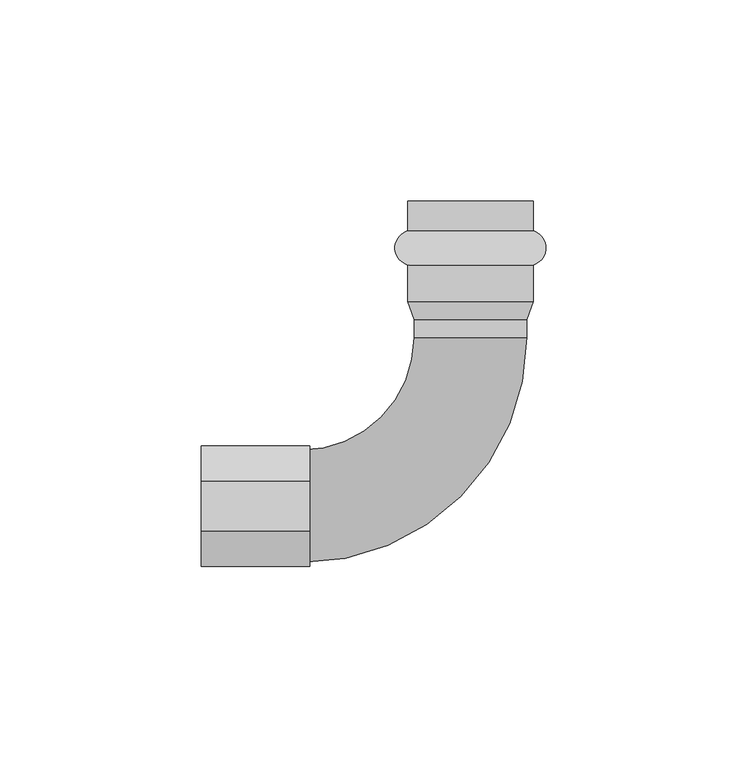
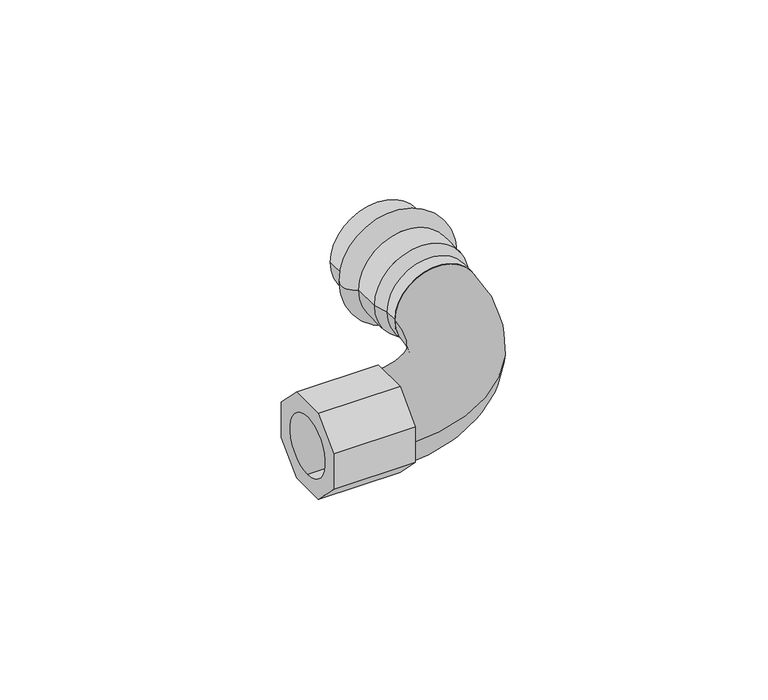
"""IFC4 building model written with IfcOpenShell, lengths in millimetres: valve geometry, Отвод_90°_с_переходом_на_внутреннюю_резьбу : Отвод_90°_с_переходом_на_внутреннюю_резьбу."""

from ifc_helpers import new_model, si_unit, point, frame, origin, origin_2d, place, context, project, spatial, polyline, circle_curve, ellipse_curve, trimmed, segment, composite_curve, outline, extrude, source, transform, mapped, element, save
from ifc_brep_helpers import plane_surface, cylinder_surface, revolved_surface, advanced_brep


def valve_146a76d8(model_context):
    return source(origin(), model_context, "Body", "SolidModel", [
        extrude(outline(polyline([(6.2132034, -15.0), (-6.2132034, -15.0), (-15.0, -6.2132034), (-15.0, 6.2132034), (-6.2132034, 15.0), (6.2132034, 15.0), (15.0, 6.2132034), (15.0, -6.2132034), (6.2132034, -15.0)]), holes=[composite_curve([segment(trimmed(circle_curve(origin_2d(), 10.0), [point((0.0, 10.0))], [point((0.0, -10.0))], True, "CARTESIAN"), True, "CONTINUOUS"), segment(trimmed(circle_curve(origin_2d(), 10.0), [point((0.0, -10.0))], [point((0.0, 10.0))], True, "CARTESIAN"), True, "CONTINUOUS")], self_intersect=False)]), frame((-67.0, 0.0, 0.0), z_axis=(1.0, 0.0, 0.0), x_axis=(0.0, 1.0, 0.0)), (0.0, 0.0, 1.0), 27.0),
        advanced_brep(
        [(15.58, 68.56, 0.0), (-15.58, 68.56, 0.0), (-15.58, 76.0, 0.0), (15.58, 76.0, 0.0), (15.58, 60.04, 0.0), (-15.58, 60.04, 0.0), (15.58, 51.0, 0.0), (-15.58, 51.0, 0.0), (14.0, 46.52, 0.0), (-14.0, 46.52, 0.0), (14.0, 42.0, 0.0), (-14.0, 42.0, 0.0), (0.0, 42.0, 0.0), (0.0, 76.0, 0.0)],
        [
            (0, 1, circle_curve(frame((0.0, 68.56, 0.0), z_axis=(0.0, 1.0, 0.0), x_axis=(-1.0, 0.0, 0.0)), 15.58)),
            (1, 2),
            (2, 3, circle_curve(frame((0.0, 76.0, 0.0), z_axis=(0.0, -1.0, 0.0), x_axis=(-1.0, 0.0, 0.0)), 15.58)),
            (3, 0),
            (1, 0, circle_curve(frame((0.0, 68.56, 0.0), z_axis=(0.0, 1.0, 0.0), x_axis=(-1.0, 0.0, 0.0)), 15.58)),
            (3, 2, circle_curve(frame((0.0, 76.0, 0.0), z_axis=(0.0, -1.0, 0.0), x_axis=(-1.0, 0.0, 0.0)), 15.58)),
            (4, 5, circle_curve(frame((0.0, 60.04, 0.0), z_axis=(0.0, 1.0, 0.0), x_axis=(-1.0, 0.0, 0.0)), 15.58)),
            (5, 1, circle_curve(frame((-14.3504491, 64.3, 0.0), z_axis=(0.0, 0.0, -1.0), x_axis=(0.0, 1.0, 0.0)), 4.4338917)),
            (0, 4, circle_curve(frame((14.3504491, 64.3, 0.0), z_axis=(0.0, 0.0, -1.0), x_axis=(0.0, 1.0, 0.0)), 4.4338917)),
            (5, 4, circle_curve(frame((0.0, 60.04, 0.0), z_axis=(0.0, 1.0, 0.0), x_axis=(-1.0, 0.0, 0.0)), 15.58)),
            (6, 7, circle_curve(frame((0.0, 51.0, 0.0), z_axis=(0.0, 1.0, 0.0), x_axis=(-1.0, 0.0, 0.0)), 15.58)),
            (7, 5),
            (4, 6),
            (7, 6, circle_curve(frame((0.0, 51.0, 0.0), z_axis=(0.0, 1.0, 0.0), x_axis=(-1.0, 0.0, 0.0)), 15.58)),
            (8, 9, circle_curve(frame((0.0, 46.52, 0.0), z_axis=(0.0, 1.0, 0.0), x_axis=(-1.0, 0.0, 0.0)), 14.0)),
            (9, 7),
            (6, 8),
            (9, 8, circle_curve(frame((0.0, 46.52, 0.0), z_axis=(0.0, 1.0, 0.0), x_axis=(-1.0, 0.0, 0.0)), 14.0)),
            (10, 11, circle_curve(frame((0.0, 42.0, 0.0), z_axis=(0.0, 1.0, 0.0), x_axis=(-1.0, 0.0, 0.0)), 14.0)),
            (11, 9),
            (8, 10),
            (11, 10, circle_curve(frame((0.0, 42.0, 0.0), z_axis=(0.0, 1.0, 0.0), x_axis=(-1.0, 0.0, 0.0)), 14.0)),
            (12, 11),
            (10, 12),
            (2, 13),
            (13, 3),
        ],
        [
            cylinder_surface(frame((0.0, 2076.0, 0.0), z_axis=(0.0, -1.0, 0.0), x_axis=(-1.0, 0.0, 0.0)), 15.58),
            revolved_surface(trimmed(ellipse_curve(frame((-14.3504491, 64.3, 0.0), z_axis=(0.0, 0.0, 1.0), x_axis=(0.0, 1.0, 0.0)), 4.4338917, 4.4338917), [point((-15.58, 68.56, 0.0))], [point((-15.58, 60.04, 0.0))], True, "CARTESIAN"), (0.0, 2076.0, 0.0), (0.0, -1.0, 0.0)),
            revolved_surface(polyline([(-15.58, 51.0, 0.0), (-14.0, 46.52, 0.0)]), (0.0, 2076.0, 0.0), (0.0, -1.0, 0.0)),
            cylinder_surface(frame((0.0, 2076.0, 0.0), z_axis=(0.0, -1.0, 0.0), x_axis=(-1.0, 0.0, 0.0)), 14.0),
            plane_surface(frame((0.0, 42.0, 0.0), z_axis=(0.0, -1.0, 0.0), x_axis=(-1.0, 0.0, 0.0))),
            plane_surface(frame((0.0, 76.0, 0.0), z_axis=(0.0, 1.0, 0.0), x_axis=(-1.0, 0.0, 0.0))),
        ],
        [
            (0, [[1, 2, 3, 4]]),
            (0, [[5, -4, 6, -2]]),
            (1, [[7, 8, -1, 9]]),
            (1, [[10, -9, -5, -8]]),
            (0, [[11, 12, -7, 13]]),
            (0, [[14, -13, -10, -12]]),
            (2, [[15, 16, -11, 17]]),
            (2, [[18, -17, -14, -16]]),
            (3, [[19, 20, -15, 21]]),
            (3, [[22, -21, -18, -20]]),
            (4, [[23, -19, 24]]),
            (4, [[-24, -22, -23]]),
            (5, [[-3, 25, 26]]),
            (5, [[-6, -26, -25]]),
        ],
    ),
        advanced_brep(
        [(-42.0, 0.0, 0.0), (-42.0, 14.0, 0.0), (-42.0, -14.0, 0.0), (-40.0, 14.0, 0.0), (-40.0, -14.0, 0.0), (-40.0, 0.0, 0.0)],
        [
            (0, 1),
            (1, 2, circle_curve(frame((-42.0, 0.0, 0.0), z_axis=(-1.0, 0.0, 0.0), x_axis=(0.0, 1.0, 0.0)), 14.0)),
            (2, 0),
            (2, 1, circle_curve(frame((-42.0, 0.0, 0.0), z_axis=(-1.0, 0.0, 0.0), x_axis=(0.0, 1.0, 0.0)), 14.0)),
            (1, 3),
            (3, 4, circle_curve(frame((-40.0, 0.0, 0.0), z_axis=(-1.0, 0.0, 0.0), x_axis=(0.0, 1.0, 0.0)), 14.0)),
            (4, 2),
            (4, 3, circle_curve(frame((-40.0, 0.0, 0.0), z_axis=(-1.0, 0.0, 0.0), x_axis=(0.0, 1.0, 0.0)), 14.0)),
            (3, 5),
            (5, 4),
        ],
        [
            plane_surface(frame((-42.0, 0.0, 0.0), z_axis=(-1.0, 0.0, 0.0), x_axis=(0.0, 1.0, 0.0))),
            cylinder_surface(frame((2000.0, 0.0, 0.0), z_axis=(-1.0, 0.0, 0.0), x_axis=(0.0, 1.0, 0.0)), 14.0),
            plane_surface(frame((-40.0, 0.0, 0.0), z_axis=(1.0, 0.0, 0.0), x_axis=(0.0, 1.0, 0.0))),
        ],
        [
            (0, [[1, 2, 3]]),
            (0, [[-3, 4, -1]]),
            (1, [[-2, 5, 6, 7]]),
            (1, [[-4, -7, 8, -5]]),
            (2, [[-6, 9, 10]]),
            (2, [[-8, -10, -9]]),
        ],
    ),
        advanced_brep(
        [(-14.0, 42.0, 0.0), (14.0, 42.0, 0.0), (-42.0, 14.0, 0.0), (-42.0, -14.0, 0.0)],
        [
            (0, 1, circle_curve(frame((0.0, 42.0, 0.0), z_axis=(0.0, 1.0, 0.0), x_axis=(1.0, 0.0, 0.0)), 14.0)),
            (1, 0, circle_curve(frame((0.0, 42.0, 0.0), z_axis=(0.0, 1.0, 0.0), x_axis=(1.0, 0.0, 0.0)), 14.0)),
            (2, 3, circle_curve(frame((-42.0, 0.0, 0.0), z_axis=(-1.0, 0.0, 0.0), x_axis=(0.0, -1.0, 0.0)), 14.0)),
            (3, 2, circle_curve(frame((-42.0, 0.0, 0.0), z_axis=(-1.0, 0.0, 0.0), x_axis=(0.0, -1.0, 0.0)), 14.0)),
            (3, 1, circle_curve(frame((-42.0, 42.0, 0.0), z_axis=(0.0, 0.0, 1.0), x_axis=(1.0, 0.0, 0.0)), 56.0)),
            (0, 2, circle_curve(frame((-42.0, 42.0, 0.0), z_axis=(0.0, 0.0, -1.0), x_axis=(1.0, 0.0, 0.0)), 28.0)),
        ],
        [
            plane_surface(frame((0.0, 42.0, 0.0), z_axis=(0.0, 1.0, 0.0), x_axis=(0.0, 0.0, 1.0))),
            plane_surface(frame((-42.0, 0.0, 0.0), z_axis=(-1.0, 0.0, 0.0), x_axis=(0.0, 0.0, 1.0))),
            revolved_surface(trimmed(ellipse_curve(frame((0.0, 42.0, 0.0), z_axis=(0.0, 1.0, 0.0), x_axis=(1.0, 0.0, 0.0)), 14.0, 14.0), [point((-14.0, 42.0, 0.0))], [point((14.0, 42.0, 0.0))], True, "CARTESIAN"), (-42.0, 42.0, 0.0), (0.0, 0.0, -1.0)),
            revolved_surface(trimmed(ellipse_curve(frame((0.0, 42.0, 0.0), z_axis=(0.0, 1.0, 0.0), x_axis=(1.0, 0.0, 0.0)), 14.0, 14.0), [point((14.0, 42.0, 0.0))], [point((-14.0, 42.0, 0.0))], True, "CARTESIAN"), (-42.0, 42.0, 0.0), (0.0, 0.0, -1.0)),
        ],
        [
            (0, [[1, 2]]),
            (1, [[3, 4]]),
            (2, [[5, -1, 6, -4]]),
            (3, [[-6, -2, -5, -3]]),
        ],
    ),
    ])


if __name__ == "__main__":
    model = new_model("IFC4")
    model_context = context("Model", 3, world=origin())
    ifc_project = project(units=[si_unit("LENGTHUNIT", "METRE", prefix="MILLI")], contexts=[model_context])
    site = spatial("IfcSite", under=ifc_project)
    building = spatial("IfcBuilding", under=site)
    placement = place(None, origin())
    valve_shape = valve_146a76d8(model_context)
    element("IfcValve", 1, ObjectType="Отвод_90°_с_переходом_на_внутреннюю_резьбу : Отвод_90°_с_переходом_на_внутреннюю_резьбу", at=placement, inside=building, context=model_context, shape_type="MappedRepresentation", body=[
        mapped(valve_shape, transform((0.0, 0.0, 0.0), x_axis=(1.0, 0.0, 0.0), y_axis=(0.0, 1.0, 0.0), z_axis=(0.0, 0.0, 1.0))),
    ])
    save(model, "model.ifc")
